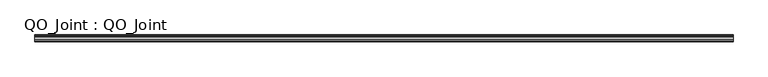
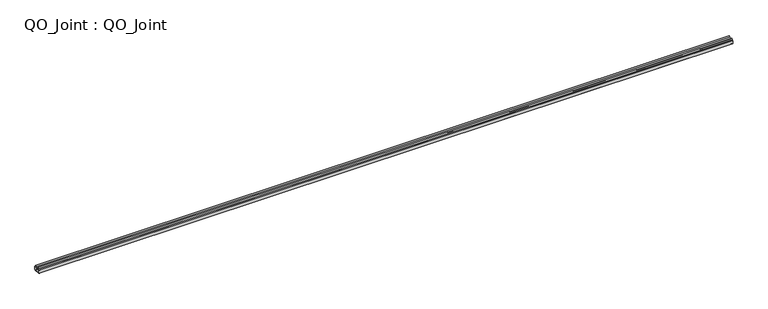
"""IFC4 building model written with IfcOpenShell, lengths in millimetres: beam geometry, QO_Joint : QO_Joint."""

from ifc_helpers import new_model, si_unit, point, frame, frame_2d, origin, place, context, project, spatial, polyline, circle_curve, trimmed, segment, composite_curve, outline, extrude, source, transform, mapped, element, save


def qo_joint_qo_joint_ef6f4e35(model_context):
    return source(origin(), model_context, "Body", "SweptSolid", [
        extrude(outline(composite_curve([segment(polyline([(0.6475876, 34.6160805), (0.6475876, 25.5027713), (8.3158634, 25.5027713), (9.8478388, 24.5783623)]), True, "CONTINUOUS"), segment(trimmed(circle_curve(frame_2d((9.6876801, 24.3129396)), 0.31), [point((9.8478388, 24.5783623))], [point((9.6876801, 24.0029396))], False, "CARTESIAN"), True, "CONTINUOUS"), segment(polyline([(9.6876801, 24.0029396), (-9.6923428, 24.0029396)]), True, "CONTINUOUS"), segment(trimmed(circle_curve(frame_2d((-9.6923428, 24.3129396)), 0.31), [point((-9.6923428, 24.0029396))], [point((-9.8525015, 24.5783623))], False, "CARTESIAN"), True, "CONTINUOUS"), segment(polyline([(-9.8525015, 24.5783623), (-8.3205261, 25.5027713), (-0.6524124, 25.5027713), (-0.6524124, 34.6160805), (-2.1674381, 34.6160805), (-0.3546092, 35.9759407), (-0.3546092, 36.7759407), (-2.3561345, 36.7759407), (-2.3561345, 34.317153), (-1.2879019, 34.317153), (-1.2879019, 26.5392087)]), True, "CONTINUOUS"), segment(trimmed(circle_curve(frame_2d((-1.7872786, 26.5150144)), 0.4999625), [point((-1.2879019, 26.5392087))], [point((-1.7872786, 26.0150519))], False, "CARTESIAN"), True, "CONTINUOUS"), segment(polyline([(-1.7872786, 26.0150519), (-12.5010847, 26.0150519), (-12.5010847, 36.190378)]), True, "CONTINUOUS"), segment(trimmed(circle_curve(frame_2d((-11.9010847, 36.190378)), 0.6), [point((-12.5010847, 36.190378))], [point((-11.9010847, 36.790378))], False, "CARTESIAN"), True, "CONTINUOUS"), segment(polyline([(-11.9010847, 36.790378), (-6.362561, 36.790378), (-6.362561, 39.6058207), (-8.961162, 39.6058207), (-7.4224126, 43.8493822), (-4.3991903, 40.3004498), (4.3943655, 40.3004498), (7.4175879, 43.8493822), (8.9563372, 39.6058207), (6.3577362, 39.6058207), (6.3577362, 36.790378), (11.8962599, 36.790378)]), True, "CONTINUOUS"), segment(trimmed(circle_curve(frame_2d((11.8962599, 36.190378)), 0.6), [point((11.8962599, 36.790378))], [point((12.4962599, 36.190378))], False, "CARTESIAN"), True, "CONTINUOUS"), segment(polyline([(12.4962599, 36.190378), (12.4962599, 26.0150519), (1.7824538, 26.0150519)]), True, "CONTINUOUS"), segment(trimmed(circle_curve(frame_2d((1.7824538, 26.5150144)), 0.4999625), [point((1.7824538, 26.0150519))], [point((1.2830771, 26.5392087))], False, "CARTESIAN"), True, "CONTINUOUS"), segment(polyline([(1.2830771, 26.5392087), (1.2830771, 34.317153), (2.3513097, 34.317153), (2.3513097, 36.7759407), (0.3497844, 36.7759407), (0.3497844, 35.9759407), (2.1626133, 34.6160805), (0.6475876, 34.6160805)]), True, "CONTINUOUS")], self_intersect=False)), frame((-1466.55, 0.0, 0.0), z_axis=(1.0, 0.0, 0.0), x_axis=(0.0, 1.0, 0.0)), (0.0, 0.0, 1.0), 2464.0),
    ])


if __name__ == "__main__":
    model = new_model("IFC4")
    model_context = context("Model", 3, world=origin())
    ifc_project = project(units=[si_unit("LENGTHUNIT", "METRE", prefix="MILLI")], contexts=[model_context])
    site = spatial("IfcSite", under=ifc_project)
    building = spatial("IfcBuilding", under=site)
    placement = place(None, origin())
    qo_joint_qo_joint_shape = qo_joint_qo_joint_ef6f4e35(model_context)
    element("IfcBeam", 1, ObjectType="QO_Joint : QO_Joint", at=placement, inside=building, context=model_context, shape_type="MappedRepresentation", body=[
        mapped(qo_joint_qo_joint_shape, transform((0.0, 0.0, 0.0), x_axis=(1.0, 0.0, 0.0), y_axis=(0.0, 1.0, 0.0), z_axis=(0.0, 0.0, 1.0))),
    ])
    save(model, "model.ifc")
